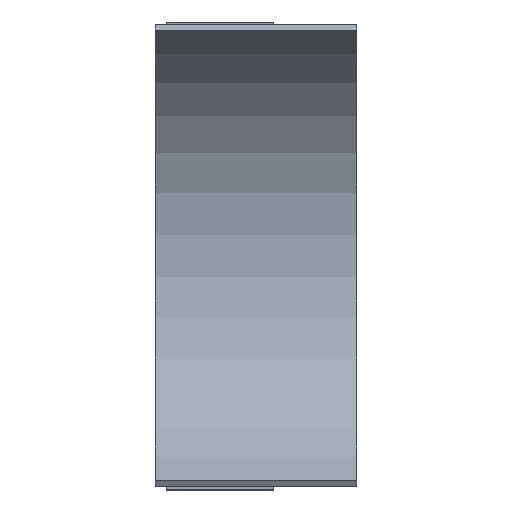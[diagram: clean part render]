
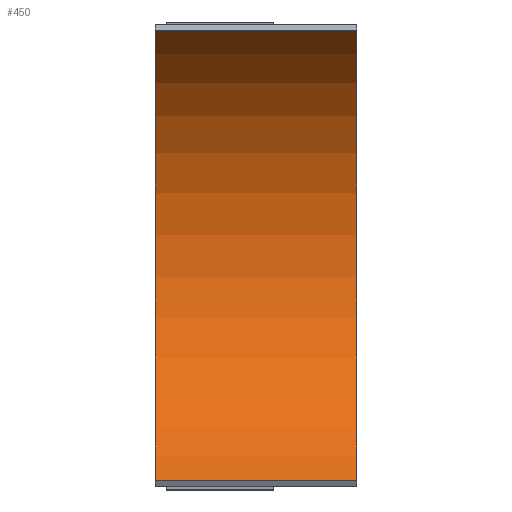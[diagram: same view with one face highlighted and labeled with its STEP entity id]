
A CAD part, top view. The second image highlights one B-rep face of the part: STEP entity #450.
In plain terms, the highlighted cylindrical face has radius 359 mm (diameter 718 mm), a partial arc.
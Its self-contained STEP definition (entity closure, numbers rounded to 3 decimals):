
#54=FACE_OUTER_BOUND('',#78,.T.);
#78=EDGE_LOOP('',(#367,#368,#369,#370));
#126=LINE('',#722,#176);
#127=LINE('',#728,#177);
#176=VECTOR('',#592,10.);
#177=VECTOR('',#599,10.);
#203=CIRCLE('',#503,359.);
#204=CIRCLE('',#504,359.);
#231=VERTEX_POINT('',#715);
#234=VERTEX_POINT('',#720);
#235=VERTEX_POINT('',#724);
#236=VERTEX_POINT('',#726);
#286=EDGE_CURVE('',#231,#234,#126,.T.);
#287=EDGE_CURVE('',#235,#231,#203,.T.);
#288=EDGE_CURVE('',#236,#234,#204,.T.);
#289=EDGE_CURVE('',#235,#236,#127,.T.);
#367=ORIENTED_EDGE('',*,*,#287,.T.);
#368=ORIENTED_EDGE('',*,*,#286,.T.);
#369=ORIENTED_EDGE('',*,*,#288,.F.);
#370=ORIENTED_EDGE('',*,*,#289,.F.);
#435=CYLINDRICAL_SURFACE('',#502,359.);
#450=ADVANCED_FACE('',(#54),#435,.F.);
#502=AXIS2_PLACEMENT_3D('',#723,#593,#594);
#503=AXIS2_PLACEMENT_3D('',#725,#595,#596);
#504=AXIS2_PLACEMENT_3D('',#727,#597,#598);
#592=DIRECTION('',(1.,0.,0.));
#593=DIRECTION('center_axis',(1.,0.,0.));
#594=DIRECTION('ref_axis',(0.,-1.,0.));
#595=DIRECTION('center_axis',(-1.,0.,0.));
#596=DIRECTION('ref_axis',(0.,-1.,0.));
#597=DIRECTION('center_axis',(-1.,0.,0.));
#598=DIRECTION('ref_axis',(0.,-1.,0.));
#599=DIRECTION('',(1.,0.,0.));
#715=CARTESIAN_POINT('',(-90.,-312.91,424.022));
#720=CARTESIAN_POINT('',(190.,-312.91,424.022));
#722=CARTESIAN_POINT('',(-90.,-312.91,424.022));
#723=CARTESIAN_POINT('Origin',(-90.,0.,600.));
#724=CARTESIAN_POINT('',(-90.,312.91,424.022));
#725=CARTESIAN_POINT('Origin',(-90.,0.,600.));
#726=CARTESIAN_POINT('',(190.,312.91,424.022));
#727=CARTESIAN_POINT('Origin',(190.,0.,600.));
#728=CARTESIAN_POINT('',(-90.,312.91,424.022));
